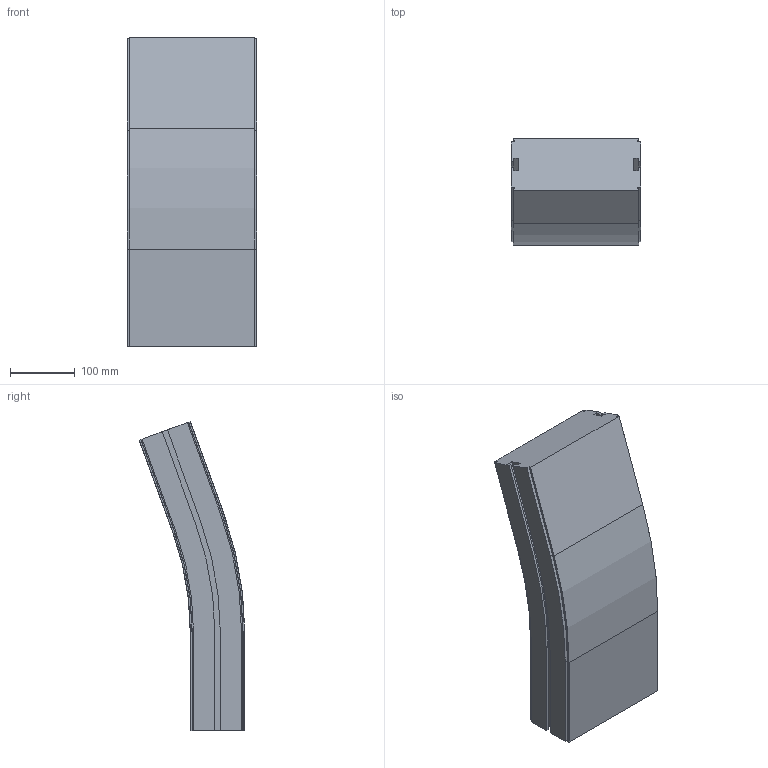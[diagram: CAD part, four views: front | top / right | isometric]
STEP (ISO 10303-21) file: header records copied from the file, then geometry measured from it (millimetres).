
FILE_DESCRIPTION (( 'STEP AP214' ), '1' );
FILE_NAME ('CS SL Verticaalbocht.200 20°.STEP', '2017-02-08T07:37:37', ( '' ), ( '' ), 'SwSTEP 2.0', 'SolidWorks 2016', '' );
FILE_SCHEMA (( 'AUTOMOTIVE_DESIGN' ));
Length unit declared in the file: millimetre
Products named in the file (1): CS SL Verticaalbocht.200 20°
Bounding box: 200 x 162.92 x 476.33 mm (x, y, z)
Volume: 7765555.7 mm3; surface area: 352545.4 mm2
Topology: 1 solids, 1 shells, 98 faces, 272 edges, 176 vertices
Faces by surface type: plane 72, cylinder 18, cone 8
Entity records: 3126 total; most frequent: CARTESIAN_POINT 547, ORIENTED_EDGE 544, DIRECTION 514, EDGE_CURVE 272, LINE 228, VECTOR 228, VERTEX_POINT 176, AXIS2_PLACEMENT_3D 143
